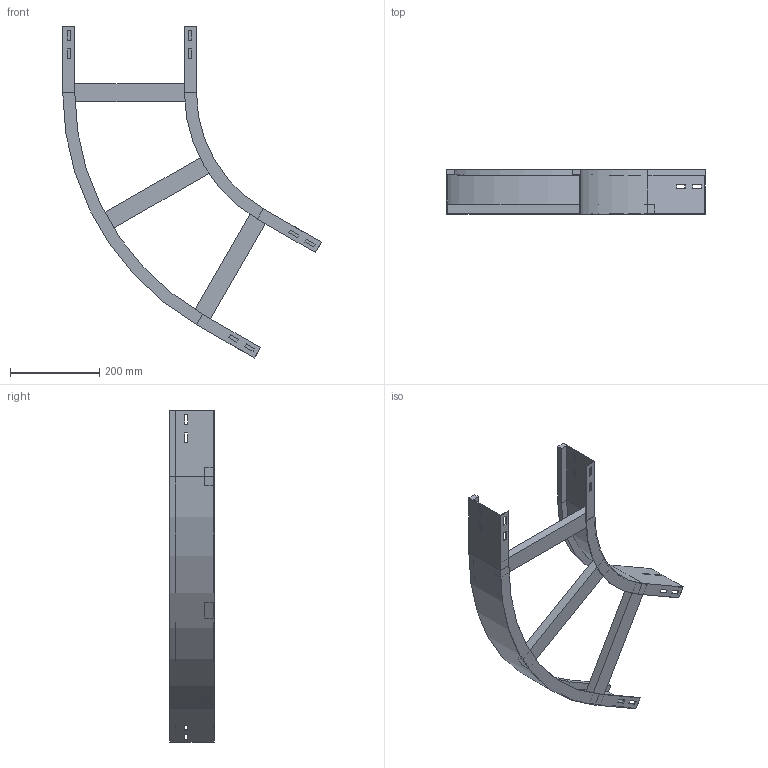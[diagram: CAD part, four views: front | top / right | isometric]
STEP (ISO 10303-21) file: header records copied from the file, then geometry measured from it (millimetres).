
FILE_DESCRIPTION (( 'STEP AP214' ), '1' );
FILE_NAME ('A2_13B3D300.step', '2025-02-21T15:17:41', ( '' ), ( '' ), 'SwSTEP 2.0', 'SolidWorks 2023', '' );
FILE_SCHEMA (( 'AUTOMOTIVE_DESIGN' ));
Length unit declared in the file: millimetre
Products named in the file (4): TRAVERSINO_300; A2_LONGH.ESTERNO 60°_H100_R300+300; A2_13B3D300; A2_LONGH.INTERNO 60°_H100_R300
Assembly tree (5 placements, depth 2):
  A2_13B3D300
    A2_LONGH.INTERNO 60°_H100_R300
    A2_LONGH.ESTERNO 60°_H100_R300+300
    TRAVERSINO_300  x3
Bounding box: 579.9 x 100 x 744.62 mm (x, y, z)
Volume: 1396127.2 mm3; surface area: 552152.6 mm2
Topology: 5 solids, 5 shells, 134 faces, 340 edges, 216 vertices
Faces by surface type: plane 126, cylinder 8
Entity records: 3821 total; most frequent: CARTESIAN_POINT 646, ORIENTED_EDGE 632, DIRECTION 592, EDGE_CURVE 316, LINE 300, VECTOR 300, VERTEX_POINT 200, EDGE_LOOP 154
